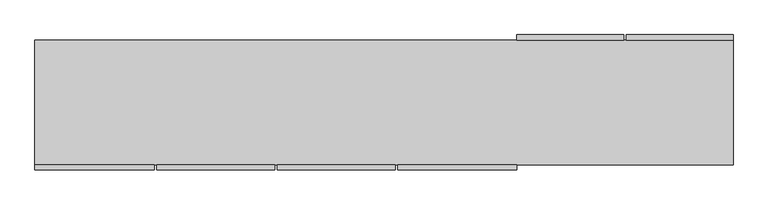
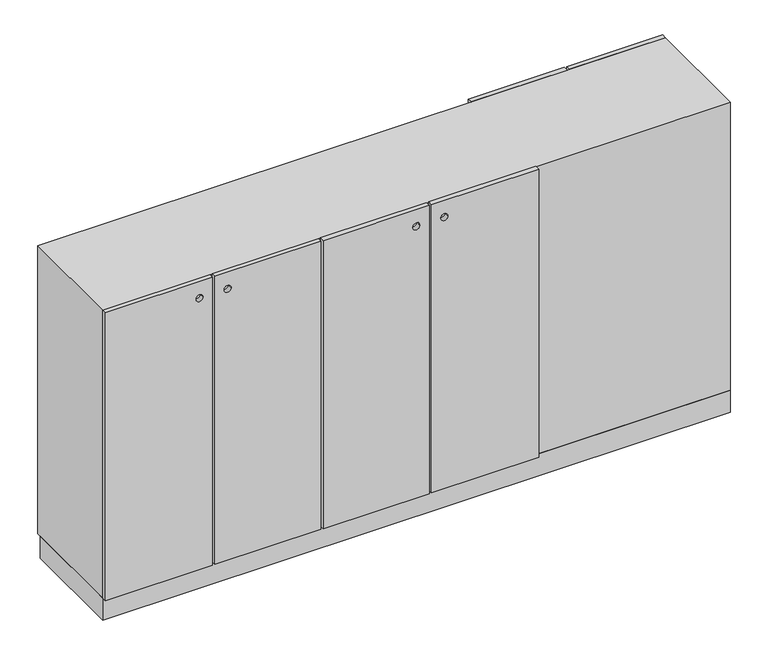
"""IFC4 building model written with IfcOpenShell, lengths in millimetres: furniture geometry, MUEBLE_EQ-12-13 : MUEBLE_EQ-12-13."""

from ifc_helpers import new_model, si_unit, point, frame, frame_2d, origin, origin_with_axes, place, context, project, spatial, polyline, circle_curve, trimmed, segment, composite_curve, outline, extrude, faceted_brep, source, transform, mapped, element, save


def furniture_7d591ccb(model_context):
    return source(origin(), model_context, "Body", "SolidModel", [
        extrude(outline(polyline([(-880.2996736, -20.0), (1799.7003264, -20.0), (1799.7003264, -480.0), (-880.2996736, -480.0), (-880.2996736, -20.0)])), origin_with_axes(), (0.0, 0.0, 1.0), 100.0),
        extrude(outline(polyline([(1400.0, 1389.7003264), (100.0, 1389.7003264), (100.0, 1799.7003264), (1400.0, 1799.7003264), (1400.0, 1389.7003264)]), holes=[composite_curve([segment(trimmed(circle_curve(frame_2d((1325.0, 1444.7003264)), 15.0), [point((1325.0, 1429.7003264))], [point((1325.0, 1459.7003264))], True, "CARTESIAN"), True, "CONTINUOUS"), segment(trimmed(circle_curve(frame_2d((1325.0, 1444.7003264)), 15.0), [point((1325.0, 1459.7003264))], [point((1325.0, 1429.7003264))], True, "CARTESIAN"), True, "CONTINUOUS")], self_intersect=False)]), frame((0.0, 0.0, 0.0), z_axis=(0.0, 1.0, 0.0), x_axis=(0.0, 0.0, 1.0)), (0.0, 0.0, 1.0), 20.0),
        extrude(outline(polyline([(1400.0, 1379.7003264), (1400.0, 969.7003264), (100.0, 969.7003264), (100.0, 1379.7003264), (1400.0, 1379.7003264)]), holes=[composite_curve([segment(trimmed(circle_curve(frame_2d((1325.0, 1324.7003264)), 15.0), [point((1325.0, 1309.7003264))], [point((1325.0, 1339.7003264))], True, "CARTESIAN"), True, "CONTINUOUS"), segment(trimmed(circle_curve(frame_2d((1325.0, 1324.7003264)), 15.0), [point((1325.0, 1339.7003264))], [point((1325.0, 1309.7003264))], True, "CARTESIAN"), True, "CONTINUOUS")], self_intersect=False)]), frame((0.0, 0.0, 0.0), z_axis=(0.0, 1.0, 0.0), x_axis=(0.0, 0.0, 1.0)), (0.0, 0.0, 1.0), 20.0),
        extrude(outline(polyline([(1400.0, -422.7996736), (1400.0, -880.2996736), (100.0, -880.2996736), (100.0, -422.7996736), (1400.0, -422.7996736)]), holes=[composite_curve([segment(trimmed(circle_curve(frame_2d((1325.0, -477.7996736)), 15.0), [point((1325.0, -492.7996736))], [point((1325.0, -462.7996736))], True, "CARTESIAN"), True, "CONTINUOUS"), segment(trimmed(circle_curve(frame_2d((1325.0, -477.7996736)), 15.0), [point((1325.0, -462.7996736))], [point((1325.0, -492.7996736))], True, "CARTESIAN"), True, "CONTINUOUS")], self_intersect=False)]), frame((0.0, -500.0, 0.0), z_axis=(0.0, 1.0, 0.0), x_axis=(0.0, 0.0, 1.0)), (0.0, 0.0, 1.0), 20.0),
        extrude(outline(polyline([(1400.0, 39.7003264), (1400.0, -412.7996736), (100.0, -412.7996736), (100.0, 39.7003264), (1400.0, 39.7003264)]), holes=[composite_curve([segment(trimmed(circle_curve(frame_2d((1325.0, -357.7996736)), 15.0), [point((1325.0, -372.7996736))], [point((1325.0, -342.7996736))], True, "CARTESIAN"), True, "CONTINUOUS"), segment(trimmed(circle_curve(frame_2d((1325.0, -357.7996736)), 15.0), [point((1325.0, -342.7996736))], [point((1325.0, -372.7996736))], True, "CARTESIAN"), True, "CONTINUOUS")], self_intersect=False)]), frame((0.0, -500.0, 0.0), z_axis=(0.0, 1.0, 0.0), x_axis=(0.0, 0.0, 1.0)), (0.0, 0.0, 1.0), 20.0),
        extrude(outline(polyline([(1400.0, 502.2003264), (1400.0, 49.7003264), (100.0, 49.7003264), (100.0, 502.2003264), (1400.0, 502.2003264)]), holes=[composite_curve([segment(trimmed(circle_curve(frame_2d((1325.0, 447.2003264)), 15.0), [point((1325.0, 432.2003264))], [point((1325.0, 462.2003264))], True, "CARTESIAN"), True, "CONTINUOUS"), segment(trimmed(circle_curve(frame_2d((1325.0, 447.2003264)), 15.0), [point((1325.0, 462.2003264))], [point((1325.0, 432.2003264))], True, "CARTESIAN"), True, "CONTINUOUS")], self_intersect=False)]), frame((0.0, -500.0, 0.0), z_axis=(0.0, 1.0, 0.0), x_axis=(0.0, 0.0, 1.0)), (0.0, 0.0, 1.0), 20.0),
        extrude(outline(polyline([(1400.0, 969.7003264), (1400.0, 512.2003264), (100.0, 512.2003264), (100.0, 969.7003264), (1400.0, 969.7003264)]), holes=[composite_curve([segment(trimmed(circle_curve(frame_2d((1325.0, 567.2003264)), 15.0), [point((1325.0, 552.2003264))], [point((1325.0, 582.2003264))], True, "CARTESIAN"), True, "CONTINUOUS"), segment(trimmed(circle_curve(frame_2d((1325.0, 567.2003264)), 15.0), [point((1325.0, 582.2003264))], [point((1325.0, 552.2003264))], True, "CARTESIAN"), True, "CONTINUOUS")], self_intersect=False)]), frame((0.0, -500.0, 0.0), z_axis=(0.0, 1.0, 0.0), x_axis=(0.0, 0.0, 1.0)), (0.0, 0.0, 1.0), 20.0),
        faceted_brep([(1799.7003264, 0.0, 100.0), (1799.7003264, -480.0, 100.0), (-880.2996736, -480.0, 100.0), (-880.2996736, 0.0, 100.0), (1799.7003264, 0.0, 1400.0), (1799.7003264, -480.0, 1400.0), (-880.2996736, -480.0, 1400.0), (-840.2996736, -480.0, 140.0), (-840.2996736, -480.0, 1360.0), (929.7003264, -480.0, 1360.0), (929.7003264, -480.0, 140.0), (-880.2996736, 0.0, 1400.0), (969.7003264, 0.0, 1360.0), (969.7003264, 0.0, 140.0), (1759.7003264, 0.0, 140.0), (1759.7003264, 0.0, 1360.0), (969.7003264, -440.0, 1360.0), (969.7003264, -440.0, 140.0), (1759.7003264, -440.0, 140.0), (1759.7003264, -440.0, 1360.0), (-840.2996736, -40.0, 140.0), (-840.2996736, -40.0, 1360.0), (929.7003264, -40.0, 1360.0), (929.7003264, -40.0, 140.0)], [[[0, 1, 2, 3]], [[4, 5, 1, 0]], [[5, 6, 2, 1], [7, 8, 9, 10]], [[6, 11, 3, 2]], [[11, 4, 0, 3], [12, 13, 14, 15]], [[16, 17, 13, 12]], [[17, 18, 14, 13]], [[18, 19, 15, 14]], [[20, 21, 8, 7]], [[22, 23, 10, 9]], [[23, 20, 7, 10]], [[21, 20, 23, 22]], [[16, 19, 18, 17]], [[4, 11, 6, 5]], [[21, 22, 9, 8]], [[19, 16, 12, 15]]]),
    ])


if __name__ == "__main__":
    model = new_model("IFC4")
    model_context = context("Model", 3, world=origin())
    ifc_project = project(units=[si_unit("LENGTHUNIT", "METRE", prefix="MILLI")], contexts=[model_context])
    site = spatial("IfcSite", under=ifc_project)
    building = spatial("IfcBuilding", under=site)
    placement = place(None, origin())
    furniture_shape = furniture_7d591ccb(model_context)
    element("IfcFurniture", 1, ObjectType="MUEBLE_EQ-12-13 : MUEBLE_EQ-12-13", at=placement, inside=building, context=model_context, shape_type="MappedRepresentation", body=[
        mapped(furniture_shape, transform((0.0, 0.0, 0.0), x_axis=(1.0, 0.0, 0.0), y_axis=(0.0, 1.0, 0.0), z_axis=(0.0, 0.0, 1.0))),
    ])
    save(model, "model.ifc")
